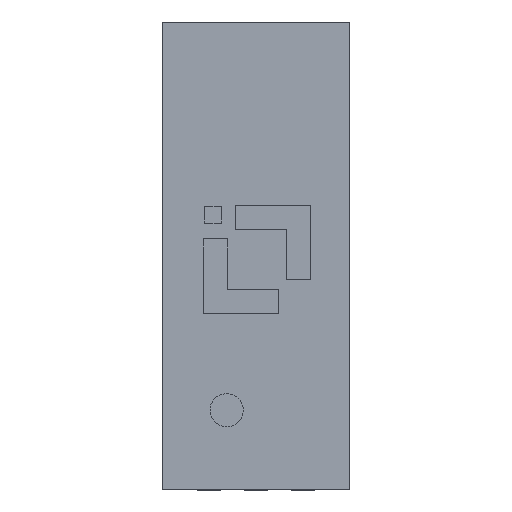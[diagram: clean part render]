
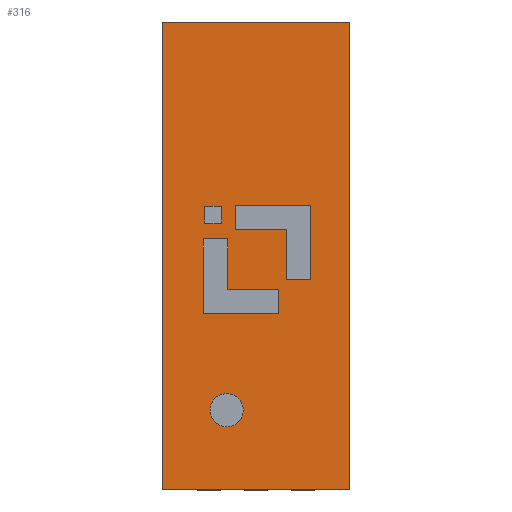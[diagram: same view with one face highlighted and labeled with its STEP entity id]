
A CAD part, top view. The second image highlights one B-rep face of the part: STEP entity #316.
In plain terms, the highlighted planar face has unit normal (0, 0, 1).
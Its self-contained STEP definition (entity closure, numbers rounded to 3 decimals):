
#42=CARTESIAN_POINT('',(1.,2.5,0.725));
#43=VERTEX_POINT('',#42);
#50=CARTESIAN_POINT('',(1.,-2.5,0.725));
#51=VERTEX_POINT('',#50);
#52=CARTESIAN_POINT('',(1.,2.5,0.725));
#53=DIRECTION('',(0.,-1.,0.));
#54=VECTOR('',#53,5.);
#55=LINE('',#52,#54);
#56=EDGE_CURVE('',#43,#51,#55,.T.);
#80=CARTESIAN_POINT('',(-1.,2.5,0.725));
#81=VERTEX_POINT('',#80);
#88=CARTESIAN_POINT('',(-1.,2.5,0.725));
#89=DIRECTION('',(1.,0.,0.));
#90=VECTOR('',#89,2.);
#91=LINE('',#88,#90);
#92=EDGE_CURVE('',#81,#43,#91,.T.);
#111=CARTESIAN_POINT('',(-1.,-2.5,0.725));
#112=VERTEX_POINT('',#111);
#119=CARTESIAN_POINT('',(-1.,-2.5,0.725));
#120=DIRECTION('',(0.,1.,0.));
#121=VECTOR('',#120,5.);
#122=LINE('',#119,#121);
#123=EDGE_CURVE('',#112,#81,#122,.T.);
#141=CARTESIAN_POINT('',(1.,-2.5,0.725));
#142=DIRECTION('',(-1.,0.,0.));
#143=VECTOR('',#142,2.);
#144=LINE('',#141,#143);
#145=EDGE_CURVE('',#51,#112,#144,.T.);
#151=CARTESIAN_POINT('',(0.,0.,0.725));
#152=DIRECTION('',(0.,0.,1.));
#153=DIRECTION('',(1.,0.,0.));
#154=AXIS2_PLACEMENT_3D('',#151,#152,#153);
#155=PLANE('',#154);
#156=CARTESIAN_POINT('',(-0.55,0.35,0.725));
#157=VERTEX_POINT('',#156);
#158=CARTESIAN_POINT('',(-0.37,0.35,0.725));
#159=VERTEX_POINT('',#158);
#160=CARTESIAN_POINT('',(-0.55,0.35,0.725));
#161=DIRECTION('',(1.,0.,-0.));
#162=VECTOR('',#161,0.18);
#163=LINE('',#160,#162);
#164=EDGE_CURVE('',#157,#159,#163,.T.);
#165=ORIENTED_EDGE('',*,*,#164,.F.);
#166=CARTESIAN_POINT('',(-0.55,0.53,0.725));
#167=VERTEX_POINT('',#166);
#168=CARTESIAN_POINT('',(-0.55,0.53,0.725));
#169=DIRECTION('',(0.,-1.,0.));
#170=VECTOR('',#169,0.18);
#171=LINE('',#168,#170);
#172=EDGE_CURVE('',#167,#157,#171,.T.);
#173=ORIENTED_EDGE('',*,*,#172,.F.);
#174=CARTESIAN_POINT('',(-0.37,0.53,0.725));
#175=VERTEX_POINT('',#174);
#176=CARTESIAN_POINT('',(-0.37,0.53,0.725));
#177=DIRECTION('',(-1.,0.,0.));
#178=VECTOR('',#177,0.18);
#179=LINE('',#176,#178);
#180=EDGE_CURVE('',#175,#167,#179,.T.);
#181=ORIENTED_EDGE('',*,*,#180,.F.);
#182=CARTESIAN_POINT('',(-0.37,0.35,0.725));
#183=DIRECTION('',(-0.,1.,0.));
#184=VECTOR('',#183,0.18);
#185=LINE('',#182,#184);
#186=EDGE_CURVE('',#159,#175,#185,.T.);
#187=ORIENTED_EDGE('',*,*,#186,.F.);
#188=EDGE_LOOP('',(#165,#173,#181,#187));
#189=FACE_BOUND('',#188,.T.);
#190=CARTESIAN_POINT('',(0.327,-0.256,0.725));
#191=VERTEX_POINT('',#190);
#192=CARTESIAN_POINT('',(0.587,-0.256,0.725));
#193=VERTEX_POINT('',#192);
#194=CARTESIAN_POINT('',(0.327,-0.256,0.725));
#195=DIRECTION('',(1.,0.,0.));
#196=VECTOR('',#195,0.26);
#197=LINE('',#194,#196);
#198=EDGE_CURVE('',#191,#193,#197,.T.);
#199=ORIENTED_EDGE('',*,*,#198,.F.);
#200=CARTESIAN_POINT('',(0.327,0.284,0.725));
#201=VERTEX_POINT('',#200);
#202=CARTESIAN_POINT('',(0.327,0.284,0.725));
#203=DIRECTION('',(-0.,-1.,0.));
#204=VECTOR('',#203,0.54);
#205=LINE('',#202,#204);
#206=EDGE_CURVE('',#201,#191,#205,.T.);
#207=ORIENTED_EDGE('',*,*,#206,.F.);
#208=CARTESIAN_POINT('',(-0.223,0.284,0.725));
#209=VERTEX_POINT('',#208);
#210=CARTESIAN_POINT('',(-0.223,0.284,0.725));
#211=DIRECTION('',(1.,0.,0.));
#212=VECTOR('',#211,0.55);
#213=LINE('',#210,#212);
#214=EDGE_CURVE('',#209,#201,#213,.T.);
#215=ORIENTED_EDGE('',*,*,#214,.F.);
#216=CARTESIAN_POINT('',(-0.223,0.544,0.725));
#217=VERTEX_POINT('',#216);
#218=CARTESIAN_POINT('',(-0.223,0.544,0.725));
#219=DIRECTION('',(0.,-1.,0.));
#220=VECTOR('',#219,0.26);
#221=LINE('',#218,#220);
#222=EDGE_CURVE('',#217,#209,#221,.T.);
#223=ORIENTED_EDGE('',*,*,#222,.F.);
#224=CARTESIAN_POINT('',(0.587,0.544,0.725));
#225=VERTEX_POINT('',#224);
#226=CARTESIAN_POINT('',(0.587,0.544,0.725));
#227=DIRECTION('',(-1.,0.,0.));
#228=VECTOR('',#227,0.81);
#229=LINE('',#226,#228);
#230=EDGE_CURVE('',#225,#217,#229,.T.);
#231=ORIENTED_EDGE('',*,*,#230,.F.);
#232=CARTESIAN_POINT('',(0.587,-0.256,0.725));
#233=DIRECTION('',(-0.,1.,0.));
#234=VECTOR('',#233,0.8);
#235=LINE('',#232,#234);
#236=EDGE_CURVE('',#193,#225,#235,.T.);
#237=ORIENTED_EDGE('',*,*,#236,.F.);
#238=EDGE_LOOP('',(#199,#207,#215,#223,#231,#237));
#239=FACE_BOUND('',#238,.T.);
#240=CARTESIAN_POINT('',(-0.564,-0.619,0.725));
#241=VERTEX_POINT('',#240);
#242=CARTESIAN_POINT('',(0.246,-0.619,0.725));
#243=VERTEX_POINT('',#242);
#244=CARTESIAN_POINT('',(-0.564,-0.619,0.725));
#245=DIRECTION('',(1.,0.,-0.));
#246=VECTOR('',#245,0.81);
#247=LINE('',#244,#246);
#248=EDGE_CURVE('',#241,#243,#247,.T.);
#249=ORIENTED_EDGE('',*,*,#248,.F.);
#250=CARTESIAN_POINT('',(-0.564,0.181,0.725));
#251=VERTEX_POINT('',#250);
#252=CARTESIAN_POINT('',(-0.564,0.181,0.725));
#253=DIRECTION('',(0.,-1.,0.));
#254=VECTOR('',#253,0.8);
#255=LINE('',#252,#254);
#256=EDGE_CURVE('',#251,#241,#255,.T.);
#257=ORIENTED_EDGE('',*,*,#256,.F.);
#258=CARTESIAN_POINT('',(-0.304,0.181,0.725));
#259=VERTEX_POINT('',#258);
#260=CARTESIAN_POINT('',(-0.304,0.181,0.725));
#261=DIRECTION('',(-1.,-0.,0.));
#262=VECTOR('',#261,0.26);
#263=LINE('',#260,#262);
#264=EDGE_CURVE('',#259,#251,#263,.T.);
#265=ORIENTED_EDGE('',*,*,#264,.F.);
#266=CARTESIAN_POINT('',(-0.304,-0.359,0.725));
#267=VERTEX_POINT('',#266);
#268=CARTESIAN_POINT('',(-0.304,-0.359,0.725));
#269=DIRECTION('',(-0.,1.,0.));
#270=VECTOR('',#269,0.54);
#271=LINE('',#268,#270);
#272=EDGE_CURVE('',#267,#259,#271,.T.);
#273=ORIENTED_EDGE('',*,*,#272,.F.);
#274=CARTESIAN_POINT('',(0.246,-0.359,0.725));
#275=VERTEX_POINT('',#274);
#276=CARTESIAN_POINT('',(0.246,-0.359,0.725));
#277=DIRECTION('',(-1.,-0.,0.));
#278=VECTOR('',#277,0.55);
#279=LINE('',#276,#278);
#280=EDGE_CURVE('',#275,#267,#279,.T.);
#281=ORIENTED_EDGE('',*,*,#280,.F.);
#282=CARTESIAN_POINT('',(0.246,-0.619,0.725));
#283=DIRECTION('',(0.,1.,0.));
#284=VECTOR('',#283,0.26);
#285=LINE('',#282,#284);
#286=EDGE_CURVE('',#243,#275,#285,.T.);
#287=ORIENTED_EDGE('',*,*,#286,.F.);
#288=EDGE_LOOP('',(#249,#257,#265,#273,#281,#287));
#289=FACE_BOUND('',#288,.T.);
#290=CARTESIAN_POINT('',(-0.259,-1.481,0.725));
#291=VERTEX_POINT('',#290);
#292=CARTESIAN_POINT('',(-0.136,-1.65,0.725));
#293=VERTEX_POINT('',#292);
#294=CARTESIAN_POINT('',(-0.314,-1.65,0.725));
#295=DIRECTION('',(0.,0.,1.));
#296=DIRECTION('',(1.,0.,-0.));
#297=AXIS2_PLACEMENT_3D('',#294,#295,#296);
#298=CIRCLE('',#297,0.178);
#299=EDGE_CURVE('',#291,#293,#298,.T.);
#300=ORIENTED_EDGE('',*,*,#299,.F.);
#301=CARTESIAN_POINT('',(-0.314,-1.65,0.725));
#302=DIRECTION('',(0.,0.,1.));
#303=DIRECTION('',(1.,0.,-0.));
#304=AXIS2_PLACEMENT_3D('',#301,#302,#303);
#305=CIRCLE('',#304,0.178);
#306=EDGE_CURVE('',#293,#291,#305,.T.);
#307=ORIENTED_EDGE('',*,*,#306,.F.);
#308=EDGE_LOOP('',(#300,#307));
#309=FACE_BOUND('',#308,.T.);
#310=ORIENTED_EDGE('',*,*,#56,.F.);
#311=ORIENTED_EDGE('',*,*,#92,.F.);
#312=ORIENTED_EDGE('',*,*,#123,.F.);
#313=ORIENTED_EDGE('',*,*,#145,.F.);
#314=EDGE_LOOP('',(#310,#311,#312,#313));
#315=FACE_BOUND('',#314,.T.);
#316=ADVANCED_FACE('',(#189,#239,#289,#309,#315),#155,.T.);
